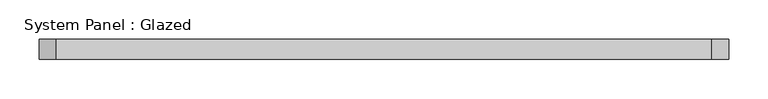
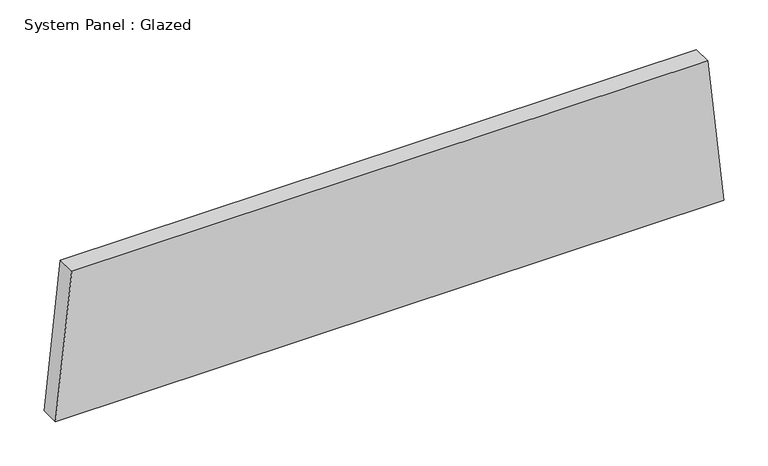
"""IFC4 building model written with IfcOpenShell, lengths in millimetres: plate geometry, System Panel : Glazed."""

from ifc_helpers import new_model, si_unit, frame, origin, place, context, project, spatial, polyline, outline, extrude, source, transform, mapped, element, save


def system_panel_glazed_de823024(model_context):
    return source(origin(), model_context, "Body", "SweptSolid", [
        extrude(outline(polyline([(0.0, -437.9070812), (0.0, 437.9070812), (201.0481529, 416.4595676), (201.0481529, -416.4595676), (0.0, -437.9070812)])), frame((0.0, 19.05, 0.0), z_axis=(0.0, 1.0, 0.0), x_axis=(0.0, 0.0, 1.0)), (0.0, 0.0, 1.0), 25.4),
    ])


if __name__ == "__main__":
    model = new_model("IFC4")
    model_context = context("Model", 3, world=origin())
    ifc_project = project(units=[si_unit("LENGTHUNIT", "METRE", prefix="MILLI")], contexts=[model_context])
    site = spatial("IfcSite", under=ifc_project)
    building = spatial("IfcBuilding", under=site)
    placement = place(None, origin())
    system_panel_glazed_shape = system_panel_glazed_de823024(model_context)
    element("IfcPlate", 1, ObjectType="System Panel : Glazed", at=placement, inside=building, context=model_context, shape_type="MappedRepresentation", body=[
        mapped(system_panel_glazed_shape, transform((0.0, 0.0, 0.0), x_axis=(1.0, 0.0, 0.0), y_axis=(0.0, 1.0, 0.0), z_axis=(0.0, 0.0, 1.0))),
    ])
    save(model, "model.ifc")
